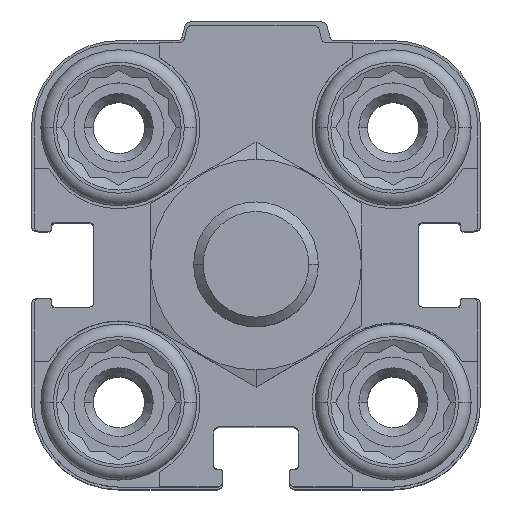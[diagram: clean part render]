
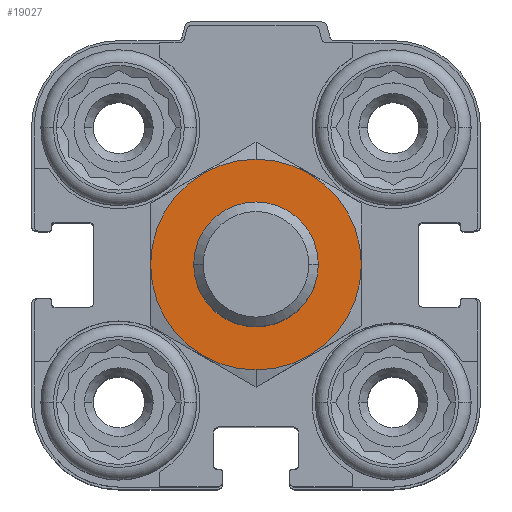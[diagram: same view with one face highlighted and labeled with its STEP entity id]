
A CAD part, top view. The second image highlights one B-rep face of the part: STEP entity #19027.
In plain terms, the highlighted planar face has unit normal (0, 0, 1).
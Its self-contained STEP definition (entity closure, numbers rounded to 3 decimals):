
#1426 = FACE_BOUND ( 'NONE', #3803, .T. ) ;
#1461 = DIRECTION ( 'NONE',  ( 0., -1., 0. ) ) ;
#2901 = CARTESIAN_POINT ( 'NONE',  ( 0., 0., 13.5 ) ) ;
#3235 = EDGE_CURVE ( 'NONE', #8339, #16093, #16512, .T. ) ;
#3267 = DIRECTION ( 'NONE',  ( 0., 0., -1. ) ) ;
#3372 = CIRCLE ( 'NONE', #8301, 8.45 ) ;
#3720 = CARTESIAN_POINT ( 'NONE',  ( 0., -8.45, 13.5 ) ) ;
#3803 = EDGE_LOOP ( 'NONE', ( #14788, #8647 ) ) ;
#4199 = CARTESIAN_POINT ( 'NONE',  ( 0., 0., 13.5 ) ) ;
#4763 = CARTESIAN_POINT ( 'NONE',  ( 0., -5., 13.5 ) ) ;
#5515 = DIRECTION ( 'NONE',  ( 0., -1., 0. ) ) ;
#5607 = ORIENTED_EDGE ( 'NONE', *, *, #7675, .F. ) ;
#6154 = DIRECTION ( 'NONE',  ( 0., -1., 0. ) ) ;
#6766 = DIRECTION ( 'NONE',  ( 0., 0., -1. ) ) ;
#7015 = ORIENTED_EDGE ( 'NONE', *, *, #15250, .F. ) ;
#7290 = DIRECTION ( 'NONE',  ( 0., 0., -1. ) ) ;
#7440 = CARTESIAN_POINT ( 'NONE',  ( 0., 5., 13.5 ) ) ;
#7675 = EDGE_CURVE ( 'NONE', #17124, #18724, #18253, .T. ) ;
#7692 = PLANE ( 'NONE',  #11595 ) ;
#8301 = AXIS2_PLACEMENT_3D ( 'NONE', #4199, #7290, #12122 ) ;
#8339 = VERTEX_POINT ( 'NONE', #7440 ) ;
#8647 = ORIENTED_EDGE ( 'NONE', *, *, #10348, .T. ) ;
#9233 = FACE_OUTER_BOUND ( 'NONE', #15142, .T. ) ;
#9539 = CARTESIAN_POINT ( 'NONE',  ( 0., 0., 13.5 ) ) ;
#10348 = EDGE_CURVE ( 'NONE', #16093, #8339, #17428, .T. ) ;
#11595 = AXIS2_PLACEMENT_3D ( 'NONE', #13975, #20264, #6154 ) ;
#12122 = DIRECTION ( 'NONE',  ( 0., -1., 0. ) ) ;
#13160 = CARTESIAN_POINT ( 'NONE',  ( 0., 8.45, 13.5 ) ) ;
#13975 = CARTESIAN_POINT ( 'NONE',  ( 0., 0., 13.5 ) ) ;
#14788 = ORIENTED_EDGE ( 'NONE', *, *, #3235, .T. ) ;
#15142 = EDGE_LOOP ( 'NONE', ( #5607, #7015 ) ) ;
#15250 = EDGE_CURVE ( 'NONE', #18724, #17124, #3372, .T. ) ;
#16093 = VERTEX_POINT ( 'NONE', #4763 ) ;
#16181 = AXIS2_PLACEMENT_3D ( 'NONE', #9539, #6766, #5515 ) ;
#16288 = AXIS2_PLACEMENT_3D ( 'NONE', #19010, #3267, #19318 ) ;
#16442 = AXIS2_PLACEMENT_3D ( 'NONE', #2901, #20078, #1461 ) ;
#16512 = CIRCLE ( 'NONE', #16181, 5. ) ;
#17124 = VERTEX_POINT ( 'NONE', #3720 ) ;
#17428 = CIRCLE ( 'NONE', #16442, 5. ) ;
#18253 = CIRCLE ( 'NONE', #16288, 8.45 ) ;
#18724 = VERTEX_POINT ( 'NONE', #13160 ) ;
#19010 = CARTESIAN_POINT ( 'NONE',  ( 0., 0., 13.5 ) ) ;
#19027 = ADVANCED_FACE ( 'NONE', ( #9233, #1426 ), #7692, .F. ) ;
#19318 = DIRECTION ( 'NONE',  ( 0., -1., 0. ) ) ;
#20078 = DIRECTION ( 'NONE',  ( 0., 0., -1. ) ) ;
#20264 = DIRECTION ( 'NONE',  ( 0., 0., -1. ) ) ;
